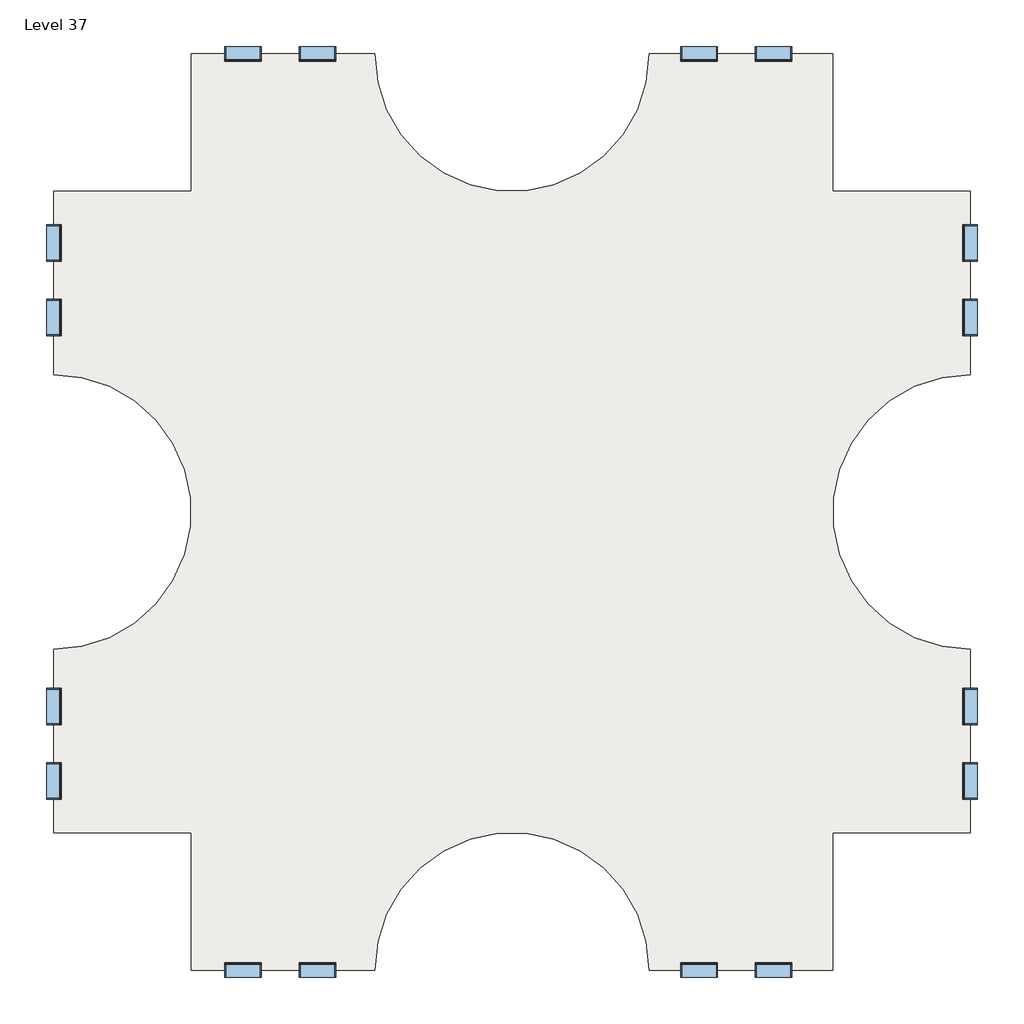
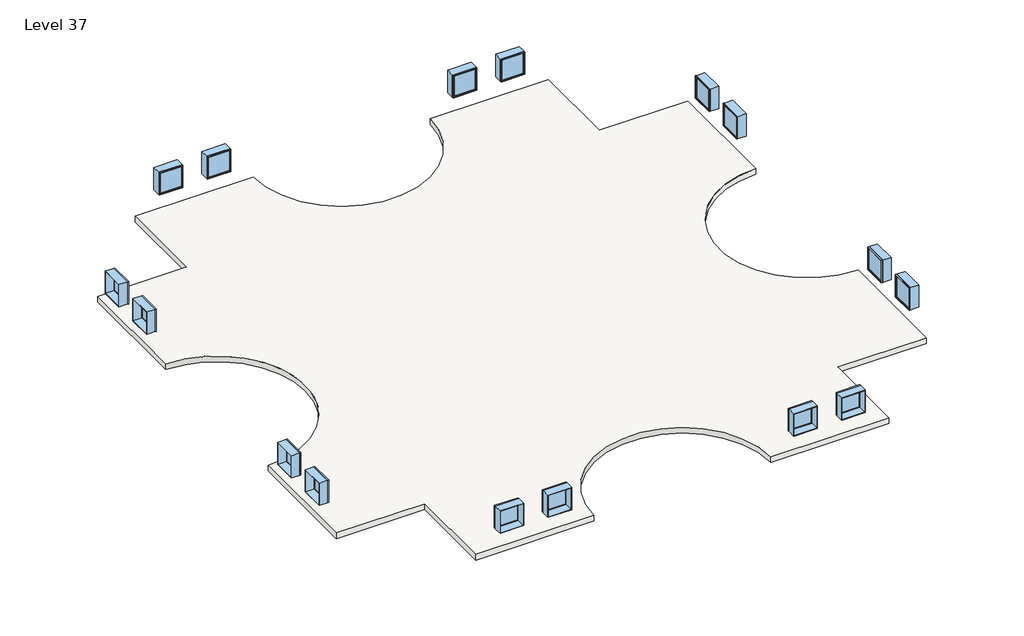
# One storey: 16 windows, 3 slabs.
"""IFC4 building model written with IfcOpenShell, lengths in millimetres."""

from ifc_helpers import new_model, si_unit, point, frame, frame_2d, origin, place, context, project, spatial, polyline, circle_curve, trimmed, segment, composite_curve, outline, extrude, transform, mapped, element, save
from components import window_d0035ecf, window_d434eb62

model = new_model("IFC4")

# Units and contexts
model_context = context("Model", 3, world=origin())
ifc_project = project(units=[si_unit("LENGTHUNIT", "METRE", prefix="MILLI")], contexts=[model_context])

# Site, building, storey
site = spatial("IfcSite", under=ifc_project)
building = spatial("IfcBuilding", under=site)
storey = spatial("IfcBuildingStorey", under=building, Name="Level 37", Elevation=109728.0)

# Slabs
placement = place(None, origin())
element("IfcSlab", 1, ObjectType="Generic - 12\"", at=placement, inside=storey, context=model_context, shape_type="SweptSolid", body=[
    extrude(outline(composite_curve([segment(polyline([(-7150.3629456, 4479.6634547), (-7150.3629456, 9051.6634547), (-1054.3629456, 9051.6634547)]), True, "CONTINUOUS"), segment(trimmed(circle_curve(frame_2d((3517.6370544, 9051.6634547)), 4572.0), [point((-1054.3629456, 9051.6634547))], [point((8089.6370544, 9051.6634547))], True, "CARTESIAN"), True, "CONTINUOUS"), segment(polyline([(8089.6370544, 9051.6634547), (14185.6370544, 9051.6634547), (14185.6370544, 4479.6634547), (18757.6370544, 4479.6634547), (18757.6370544, -1616.3365453)]), True, "CONTINUOUS"), segment(trimmed(circle_curve(frame_2d((18757.6370544, -6188.3365453)), 4572.0), [point((18757.6370544, -1616.3365453))], [point((18757.6370544, -10760.3365453))], True, "CARTESIAN"), True, "CONTINUOUS"), segment(polyline([(18757.6370544, -10760.3365453), (18757.6370544, -16856.3365453), (14185.6370544, -16856.3365453), (14185.6370544, -21428.3365453), (8089.6370544, -21428.3365453)]), True, "CONTINUOUS"), segment(trimmed(circle_curve(frame_2d((3517.6370544, -21428.3365453)), 4572.0), [point((8089.6370544, -21428.3365453))], [point((-1054.3629456, -21428.3365453))], True, "CARTESIAN"), True, "CONTINUOUS"), segment(polyline([(-1054.3629456, -21428.3365453), (-7150.3629456, -21428.3365453), (-7150.3629456, -16856.3365453), (-11722.3629456, -16856.3365453), (-11722.3629456, -10760.3365453)]), True, "CONTINUOUS"), segment(trimmed(circle_curve(frame_2d((-11722.3629456, -6188.3365453)), 4572.0), [point((-11722.3629456, -10760.3365453))], [point((-11722.3629456, -1616.3365453))], True, "CARTESIAN"), True, "CONTINUOUS"), segment(polyline([(-11722.3629456, -1616.3365453), (-11722.3629456, 4479.6634547), (-7150.3629456, 4479.6634547)]), True, "CONTINUOUS")], self_intersect=False)), frame((0.0, 0.0, 109423.2), z_axis=(0.0, 0.0, 1.0), x_axis=(1.0, 0.0, 0.0)), (0.0, 0.0, 1.0), 304.8),
])
element("IfcSlab", 2, ObjectType="Generic - 12\"", at=placement, inside=storey, context=model_context, shape_type="SweptSolid", body=[
    extrude(outline(composite_curve([segment(polyline([(-7150.3629456, 4479.6634547), (-7150.3629456, 9051.6634547), (-1054.3629456, 9051.6634547)]), True, "CONTINUOUS"), segment(trimmed(circle_curve(frame_2d((3517.6370544, 9051.6634547)), 4572.0), [point((-1054.3629456, 9051.6634547))], [point((8089.6370544, 9051.6634547))], True, "CARTESIAN"), True, "CONTINUOUS"), segment(polyline([(8089.6370544, 9051.6634547), (14185.6370544, 9051.6634547), (14185.6370544, 4479.6634547), (18757.6370544, 4479.6634547), (18757.6370544, -1616.3365453)]), True, "CONTINUOUS"), segment(trimmed(circle_curve(frame_2d((18757.6370544, -6188.3365453)), 4572.0), [point((18757.6370544, -1616.3365453))], [point((18757.6370544, -10760.3365453))], True, "CARTESIAN"), True, "CONTINUOUS"), segment(polyline([(18757.6370544, -10760.3365453), (18757.6370544, -16856.3365453), (14185.6370544, -16856.3365453), (14185.6370544, -21428.3365453), (8089.6370544, -21428.3365453)]), True, "CONTINUOUS"), segment(trimmed(circle_curve(frame_2d((3517.6370544, -21428.3365453)), 4572.0), [point((8089.6370544, -21428.3365453))], [point((-1054.3629456, -21428.3365453))], True, "CARTESIAN"), True, "CONTINUOUS"), segment(polyline([(-1054.3629456, -21428.3365453), (-7150.3629456, -21428.3365453), (-7150.3629456, -16856.3365453), (-11722.3629456, -16856.3365453), (-11722.3629456, -10760.3365453)]), True, "CONTINUOUS"), segment(trimmed(circle_curve(frame_2d((-11722.3629456, -6188.3365453)), 4572.0), [point((-11722.3629456, -10760.3365453))], [point((-11722.3629456, -1616.3365453))], True, "CARTESIAN"), True, "CONTINUOUS"), segment(polyline([(-11722.3629456, -1616.3365453), (-11722.3629456, 4479.6634547), (-7150.3629456, 4479.6634547)]), True, "CONTINUOUS")], self_intersect=False)), frame((0.0, 0.0, 109423.2), z_axis=(0.0, 0.0, 1.0), x_axis=(1.0, 0.0, 0.0)), (0.0, 0.0, 1.0), 304.8),
])
element("IfcSlab", 3, ObjectType="Generic - 12\"", at=placement, inside=storey, context=model_context, shape_type="SweptSolid", body=[
    extrude(outline(composite_curve([segment(polyline([(-7150.3629456, 4479.6634547), (-7150.3629456, 9051.6634547), (-1054.3629456, 9051.6634547)]), True, "CONTINUOUS"), segment(trimmed(circle_curve(frame_2d((3517.6370544, 9051.6634547)), 4572.0), [point((-1054.3629456, 9051.6634547))], [point((8089.6370544, 9051.6634547))], True, "CARTESIAN"), True, "CONTINUOUS"), segment(polyline([(8089.6370544, 9051.6634547), (14185.6370544, 9051.6634547), (14185.6370544, 4479.6634547), (18757.6370544, 4479.6634547), (18757.6370544, -1616.3365453)]), True, "CONTINUOUS"), segment(trimmed(circle_curve(frame_2d((18757.6370544, -6188.3365453)), 4572.0), [point((18757.6370544, -1616.3365453))], [point((18757.6370544, -10760.3365453))], True, "CARTESIAN"), True, "CONTINUOUS"), segment(polyline([(18757.6370544, -10760.3365453), (18757.6370544, -16856.3365453), (14185.6370544, -16856.3365453), (14185.6370544, -21428.3365453), (8089.6370544, -21428.3365453)]), True, "CONTINUOUS"), segment(trimmed(circle_curve(frame_2d((3517.6370544, -21428.3365453)), 4572.0), [point((8089.6370544, -21428.3365453))], [point((-1054.3629456, -21428.3365453))], True, "CARTESIAN"), True, "CONTINUOUS"), segment(polyline([(-1054.3629456, -21428.3365453), (-7150.3629456, -21428.3365453), (-7150.3629456, -16856.3365453), (-11722.3629456, -16856.3365453), (-11722.3629456, -10760.3365453)]), True, "CONTINUOUS"), segment(trimmed(circle_curve(frame_2d((-11722.3629456, -6188.3365453)), 4572.0), [point((-11722.3629456, -10760.3365453))], [point((-11722.3629456, -1616.3365453))], True, "CARTESIAN"), True, "CONTINUOUS"), segment(polyline([(-11722.3629456, -1616.3365453), (-11722.3629456, 4479.6634547), (-7150.3629456, 4479.6634547)]), True, "CONTINUOUS")], self_intersect=False)), frame((0.0, 0.0, 109423.2), z_axis=(0.0, 0.0, 1.0), x_axis=(1.0, 0.0, 0.0)), (0.0, 0.0, 1.0), 304.8),
])

# Windows
window_shape = window_d0035ecf(model_context)
element("IfcWindow", 4, ObjectType="Fixed : 48\" x 48\"", at=placement, inside=storey, context=model_context, shape_type="MappedRepresentation", body=[
    mapped(window_shape, transform((-11719.1879456, 247.3884547, 109728.0), x_axis=(0.0, -1.0, 0.0), y_axis=(1.0, 0.0, 0.0), z_axis=(0.0, 0.0, 1.0))),
])
element("IfcWindow", 5, ObjectType="Fixed : 48\" x 48\"", at=placement, inside=storey, context=model_context, shape_type="MappedRepresentation", body=[
    mapped(window_shape, transform((-5469.1993281, 9048.4884547, 109728.0), x_axis=(-1.0, 0.0, 0.0), y_axis=(0.0, -1.0, 0.0), z_axis=(0.0, 0.0, 1.0))),
])
element("IfcWindow", 6, ObjectType="Fixed : 48\" x 48\"", at=placement, inside=storey, context=model_context, shape_type="MappedRepresentation", body=[
    mapped(window_shape, transform((-11719.1879456, -15175.1729277, 109728.0), x_axis=(0.0, -1.0, 0.0), y_axis=(1.0, 0.0, 0.0), z_axis=(0.0, 0.0, 1.0))),
])
element("IfcWindow", 7, ObjectType="Fixed : 48\" x 48\"", at=placement, inside=storey, context=model_context, shape_type="MappedRepresentation", body=[
    mapped(window_shape, transform((-2918.0879456, -21425.1615453, 109728.0), x_axis=(1.0, 0.0, 0.0), y_axis=(0.0, 1.0, 0.0), z_axis=(0.0, 0.0, 1.0))),
])
element("IfcWindow", 8, ObjectType="Fixed : 48\" x 48\"", at=placement, inside=storey, context=model_context, shape_type="MappedRepresentation", body=[
    mapped(window_shape, transform((18754.4620544, 2798.4998372, 109728.0), x_axis=(0.0, 1.0, 0.0), y_axis=(-1.0, 0.0, 0.0), z_axis=(0.0, 0.0, 1.0))),
])
element("IfcWindow", 9, ObjectType="Fixed : 48\" x 48\"", at=placement, inside=storey, context=model_context, shape_type="MappedRepresentation", body=[
    mapped(window_shape, transform((9705.7120544, 9048.4884547, 109728.0), x_axis=(-1.0, 0.0, 0.0), y_axis=(0.0, -1.0, 0.0), z_axis=(0.0, 0.0, 1.0))),
])
element("IfcWindow", 10, ObjectType="Fixed : 48\" x 48\"", at=placement, inside=storey, context=model_context, shape_type="MappedRepresentation", body=[
    mapped(window_shape, transform((18754.4620544, -12624.0615453, 109728.0), x_axis=(0.0, 1.0, 0.0), y_axis=(-1.0, 0.0, 0.0), z_axis=(0.0, 0.0, 1.0))),
])
element("IfcWindow", 11, ObjectType="Fixed : 48\" x 48\"", at=placement, inside=storey, context=model_context, shape_type="MappedRepresentation", body=[
    mapped(window_shape, transform((12256.8234368, -21425.1615453, 109728.0), x_axis=(1.0, 0.0, 0.0), y_axis=(0.0, 1.0, 0.0), z_axis=(0.0, 0.0, 1.0))),
])
window_2_shape = window_d434eb62(model_context)
element("IfcWindow", 12, ObjectType="Fixed : 48\" x 48\"", at=placement, inside=storey, context=model_context, shape_type="MappedRepresentation", body=[
    mapped(window_2_shape, transform((-11719.1879456, 2798.4998372, 109728.0), x_axis=(0.0, 1.0, 0.0), y_axis=(-1.0, 0.0, 0.0), z_axis=(0.0, 0.0, 1.0))),
])
element("IfcWindow", 13, ObjectType="Fixed : 48\" x 48\"", at=placement, inside=storey, context=model_context, shape_type="MappedRepresentation", body=[
    mapped(window_2_shape, transform((-2918.0879456, 9048.4884547, 109728.0), x_axis=(1.0, 0.0, 0.0), y_axis=(0.0, 1.0, 0.0), z_axis=(0.0, 0.0, 1.0))),
])
element("IfcWindow", 14, ObjectType="Fixed : 48\" x 48\"", at=placement, inside=storey, context=model_context, shape_type="MappedRepresentation", body=[
    mapped(window_2_shape, transform((-11719.1879456, -12624.0615453, 109728.0), x_axis=(0.0, 1.0, 0.0), y_axis=(-1.0, 0.0, 0.0), z_axis=(0.0, 0.0, 1.0))),
])
element("IfcWindow", 15, ObjectType="Fixed : 48\" x 48\"", at=placement, inside=storey, context=model_context, shape_type="MappedRepresentation", body=[
    mapped(window_2_shape, transform((-5469.1993281, -21425.1615453, 109728.0), x_axis=(-1.0, 0.0, 0.0), y_axis=(0.0, -1.0, 0.0), z_axis=(0.0, 0.0, 1.0))),
])
element("IfcWindow", 16, ObjectType="Fixed : 48\" x 48\"", at=placement, inside=storey, context=model_context, shape_type="MappedRepresentation", body=[
    mapped(window_2_shape, transform((18754.4620544, 247.3884547, 109728.0), x_axis=(0.0, -1.0, 0.0), y_axis=(1.0, 0.0, 0.0), z_axis=(0.0, 0.0, 1.0))),
])
element("IfcWindow", 17, ObjectType="Fixed : 48\" x 48\"", at=placement, inside=storey, context=model_context, shape_type="MappedRepresentation", body=[
    mapped(window_2_shape, transform((12256.8234368, 9048.4884547, 109728.0), x_axis=(1.0, 0.0, 0.0), y_axis=(0.0, 1.0, 0.0), z_axis=(0.0, 0.0, 1.0))),
])
element("IfcWindow", 18, ObjectType="Fixed : 48\" x 48\"", at=placement, inside=storey, context=model_context, shape_type="MappedRepresentation", body=[
    mapped(window_2_shape, transform((18754.4620544, -15175.1729277, 109728.0), x_axis=(0.0, -1.0, 0.0), y_axis=(1.0, 0.0, 0.0), z_axis=(0.0, 0.0, 1.0))),
])
element("IfcWindow", 19, ObjectType="Fixed : 48\" x 48\"", at=placement, inside=storey, context=model_context, shape_type="MappedRepresentation", body=[
    mapped(window_2_shape, transform((9705.7120544, -21425.1615453, 109728.0), x_axis=(-1.0, 0.0, 0.0), y_axis=(0.0, -1.0, 0.0), z_axis=(0.0, 0.0, 1.0))),
])

save(model, "model.ifc")
